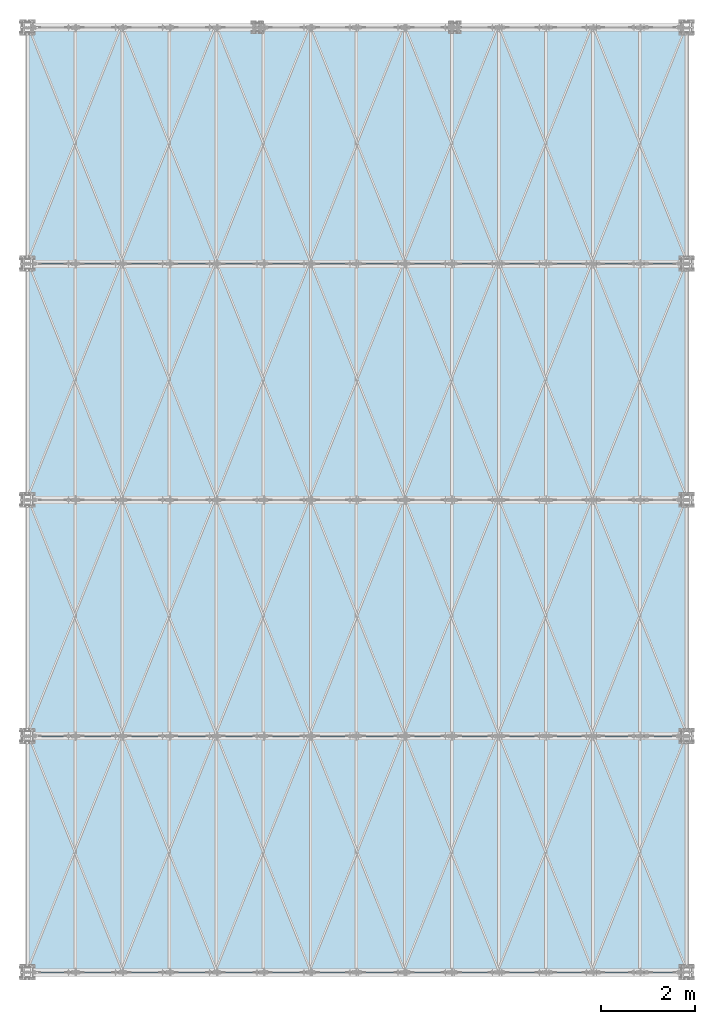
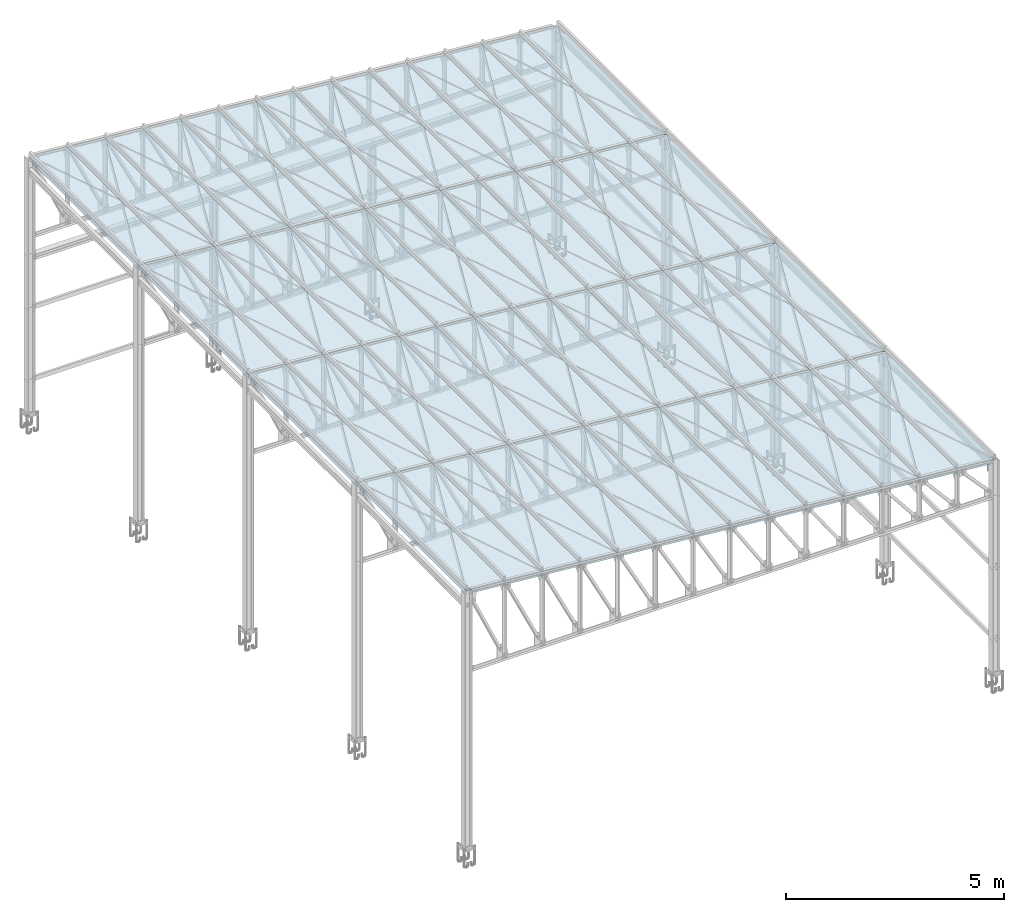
# One storey, part 4 of 251: 56 slabs.
"""IFC4 building model written with IfcOpenShell, lengths in metres."""

from ifc_helpers import new_model, si_unit, frame, origin_with_axes, place, context, project, spatial, polyline, outline, extrude, material, type_object, element, save


model = new_model("IFC4")

# Units and contexts
model_context = context("Model", 3, precision=1e-05, world=origin_with_axes())
ifc_project = project(units=[si_unit("LENGTHUNIT", "METRE"), si_unit("AREAUNIT", "SQUARE_METRE"), si_unit("VOLUMEUNIT", "CUBIC_METRE"), si_unit("MASSUNIT", "GRAM", prefix="KILO"), si_unit("TIMEUNIT", "SECOND"), si_unit("PLANEANGLEUNIT", "RADIAN"), si_unit("SOLIDANGLEUNIT", "STERADIAN"), si_unit("THERMODYNAMICTEMPERATUREUNIT", "DEGREE_CELSIUS")], contexts=[model_context])

# Site, building, storey
placement_1 = place(None, origin_with_axes())
site = spatial("IfcSite", under=ifc_project, at=placement_1, Name="Italia", CompositionType="ELEMENT")
building = spatial("IfcBuilding", under=site, at=placement_1, Name="Deposito", CompositionType="ELEMENT")
storey = spatial("IfcBuildingStorey", under=building, at=placement_1, Name="Storey 0", CompositionType="ELEMENT", Elevation=0.0)

# Slabs
ifc_material_1 = material(Name="Concrete", Category="Concrete")
slab_type_1 = type_object("IfcSlabType", Name="1 Solaio copertura", PredefinedType="FLOOR", material=ifc_material_1)
placement_2 = place(placement_1, origin_with_axes())
slab_1_placement = place(placement_2, origin_with_axes())
element("IfcSlab", 1, at=slab_1_placement, inside=storey, type_object=slab_type_1, Name="1700", context=model_context, shape_type="SweptSolid", body=[
    extrude(outline(polyline([(0.0, 0.0), (0.0, -0.973467), (-5.0, -0.973467), (-5.0, 0.0), (0.0, 0.0)])), frame((12.0304, 10.0, 6.69725), z_axis=(-0.089530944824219, 0.0, -0.995984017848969), x_axis=(0.0, -1.0, 0.0)), (0.0, 0.0, 1.0), 0.1),
])
ifc_material_2 = material(Name="Concrete", Category="Concrete")
slab_type_2 = type_object("IfcSlabType", Name="1 Solaio copertura", PredefinedType="FLOOR", material=ifc_material_2)
slab_2_placement = place(placement_2, origin_with_axes())
element("IfcSlab", 2, at=slab_2_placement, inside=storey, type_object=slab_type_2, Name="1800", context=model_context, shape_type="SweptSolid", body=[
    extrude(outline(polyline([(0.0, 0.0), (0.0, -1.0), (-5.0, -1.0), (-5.0, 0.0), (0.0, 0.0)])), frame((11.0342, 10.0, 6.7844), z_axis=(-0.087156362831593, 0.0, -0.996194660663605), x_axis=(0.0, -1.0, 0.0)), (0.0, 0.0, 1.0), 0.0999999),
])
ifc_material_3 = material(Name="Concrete", Category="Concrete")
slab_type_3 = type_object("IfcSlabType", Name="1 Solaio copertura", PredefinedType="FLOOR", material=ifc_material_3)
slab_3_placement = place(placement_2, origin_with_axes())
element("IfcSlab", 3, at=slab_3_placement, inside=storey, type_object=slab_type_3, Name="1900", context=model_context, shape_type="SweptSolid", body=[
    extrude(outline(polyline([(0.0, 0.0), (0.0, -1.0), (-5.0, -1.0), (-5.0, 0.0), (0.0, 0.0)])), frame((10.0381, 10.0, 6.87156), z_axis=(-0.087156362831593, 0.0, -0.996194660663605), x_axis=(0.0, -1.0, 0.0)), (0.0, 0.0, 1.0), 0.0999999),
])
ifc_material_4 = material(Name="Concrete", Category="Concrete")
slab_type_4 = type_object("IfcSlabType", Name="1 Solaio copertura", PredefinedType="FLOOR", material=ifc_material_4)
slab_4_placement = place(placement_2, origin_with_axes())
element("IfcSlab", 4, at=slab_4_placement, inside=storey, type_object=slab_type_4, Name="2000", context=model_context, shape_type="SweptSolid", body=[
    extrude(outline(polyline([(0.0, 0.0), (0.0, -0.999999), (-5.0, -0.999999), (-5.0, 0.0), (0.0, 0.0)])), frame((9.04186, 10.0, 6.95871), z_axis=(-0.087156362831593, 0.0, -0.996194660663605), x_axis=(0.0, -1.0, 0.0)), (0.0, 0.0, 1.0), 0.0999999),
])
ifc_material_5 = material(Name="Concrete", Category="Concrete")
slab_type_5 = type_object("IfcSlabType", Name="1 Solaio copertura", PredefinedType="FLOOR", material=ifc_material_5)
slab_5_placement = place(placement_2, origin_with_axes())
element("IfcSlab", 5, at=slab_5_placement, inside=storey, type_object=slab_type_5, Name="2100", context=model_context, shape_type="SweptSolid", body=[
    extrude(outline(polyline([(0.0, 0.0), (0.0, -1.0), (-5.0, -1.0), (-5.0, 0.0), (0.0, 0.0)])), frame((8.04566, 10.0, 7.04587), z_axis=(-0.087156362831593, 0.0, -0.996194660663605), x_axis=(0.0, -1.0, 0.0)), (0.0, 0.0, 1.0), 0.0999999),
])
ifc_material_6 = material(Name="Concrete", Category="Concrete")
slab_type_6 = type_object("IfcSlabType", Name="1 Solaio copertura", PredefinedType="FLOOR", material=ifc_material_6)
slab_6_placement = place(placement_2, origin_with_axes())
element("IfcSlab", 6, at=slab_6_placement, inside=storey, type_object=slab_type_6, Name="2200", context=model_context, shape_type="SweptSolid", body=[
    extrude(outline(polyline([(0.0, 0.0), (0.0, -1.0), (-5.0, -1.0), (-5.0, 0.0), (0.0, 0.0)])), frame((7.04947, 10.0, 7.13302), z_axis=(-0.087156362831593, 0.0, -0.996194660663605), x_axis=(0.0, -1.0, 0.0)), (0.0, 0.0, 1.0), 0.0999999),
])
ifc_material_7 = material(Name="Concrete", Category="Concrete")
slab_type_7 = type_object("IfcSlabType", Name="1 Solaio copertura", PredefinedType="FLOOR", material=ifc_material_7)
slab_7_placement = place(placement_2, origin_with_axes())
element("IfcSlab", 7, at=slab_7_placement, inside=storey, type_object=slab_type_7, Name="2300", context=model_context, shape_type="SweptSolid", body=[
    extrude(outline(polyline([(0.0, 0.0), (0.0, -1.00326), (-5.0, -1.00326), (-5.0, 0.0), (0.0, 0.0)])), frame((6.05, 10.0, 7.22018), z_axis=(-0.086870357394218, 0.0, -0.996219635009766), x_axis=(0.0, -1.0, 0.0)), (0.0, 0.0, 1.0), 0.0999998),
])
ifc_material_8 = material(Name="Concrete", Category="Concrete")
slab_type_8 = type_object("IfcSlabType", Name="1 Solaio copertura", PredefinedType="FLOOR", material=ifc_material_8)
slab_8_placement = place(placement_2, origin_with_axes())
element("IfcSlab", 8, at=slab_8_placement, inside=storey, type_object=slab_type_8, Name="2301", context=model_context, shape_type="SweptSolid", body=[
    extrude(outline(polyline([(0.0, 0.0), (0.0, -1.00326), (-5.0, -1.00326), (-5.0, 0.0), (0.0, 0.0)])), frame((6.05, 5.0, 7.22018), z_axis=(-0.086870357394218, 0.0, -0.996219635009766), x_axis=(0.0, -1.0, 0.0)), (0.0, 0.0, 1.0), 0.0999998),
])
ifc_material_9 = material(Name="Concrete", Category="Concrete")
slab_type_9 = type_object("IfcSlabType", Name="1 Solaio copertura", PredefinedType="FLOOR", material=ifc_material_9)
slab_9_placement = place(placement_2, origin_with_axes())
element("IfcSlab", 9, at=slab_9_placement, inside=storey, type_object=slab_type_9, Name="2201", context=model_context, shape_type="SweptSolid", body=[
    extrude(outline(polyline([(0.0, 0.0), (0.0, -1.0), (-5.0, -1.0), (-5.0, 0.0), (0.0, 0.0)])), frame((7.04947, 5.0, 7.13302), z_axis=(-0.087156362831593, 0.0, -0.996194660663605), x_axis=(0.0, -1.0, 0.0)), (0.0, 0.0, 1.0), 0.0999999),
])
ifc_material_10 = material(Name="Concrete", Category="Concrete")
slab_type_10 = type_object("IfcSlabType", Name="1 Solaio copertura", PredefinedType="FLOOR", material=ifc_material_10)
slab_10_placement = place(placement_2, origin_with_axes())
element("IfcSlab", 10, at=slab_10_placement, inside=storey, type_object=slab_type_10, Name="2101", context=model_context, shape_type="SweptSolid", body=[
    extrude(outline(polyline([(0.0, 0.0), (0.0, -1.0), (-5.0, -1.0), (-5.0, 0.0), (0.0, 0.0)])), frame((8.04566, 5.0, 7.04587), z_axis=(-0.087156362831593, 0.0, -0.996194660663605), x_axis=(0.0, -1.0, 0.0)), (0.0, 0.0, 1.0), 0.0999999),
])
ifc_material_11 = material(Name="Concrete", Category="Concrete")
slab_type_11 = type_object("IfcSlabType", Name="1 Solaio copertura", PredefinedType="FLOOR", material=ifc_material_11)
slab_11_placement = place(placement_2, origin_with_axes())
element("IfcSlab", 11, at=slab_11_placement, inside=storey, type_object=slab_type_11, Name="2001", context=model_context, shape_type="SweptSolid", body=[
    extrude(outline(polyline([(0.0, 0.0), (0.0, -0.999999), (-5.0, -0.999999), (-5.0, 0.0), (0.0, 0.0)])), frame((9.04186, 5.0, 6.95871), z_axis=(-0.087156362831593, 0.0, -0.996194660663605), x_axis=(0.0, -1.0, 0.0)), (0.0, 0.0, 1.0), 0.0999999),
])
ifc_material_12 = material(Name="Concrete", Category="Concrete")
slab_type_12 = type_object("IfcSlabType", Name="1 Solaio copertura", PredefinedType="FLOOR", material=ifc_material_12)
slab_12_placement = place(placement_2, origin_with_axes())
element("IfcSlab", 12, at=slab_12_placement, inside=storey, type_object=slab_type_12, Name="1901", context=model_context, shape_type="SweptSolid", body=[
    extrude(outline(polyline([(0.0, 0.0), (0.0, -1.0), (-5.0, -1.0), (-5.0, 0.0), (0.0, 0.0)])), frame((10.0381, 5.0, 6.87156), z_axis=(-0.087156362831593, 0.0, -0.996194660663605), x_axis=(0.0, -1.0, 0.0)), (0.0, 0.0, 1.0), 0.0999999),
])
ifc_material_13 = material(Name="Concrete", Category="Concrete")
slab_type_13 = type_object("IfcSlabType", Name="1 Solaio copertura", PredefinedType="FLOOR", material=ifc_material_13)
slab_13_placement = place(placement_2, origin_with_axes())
element("IfcSlab", 13, at=slab_13_placement, inside=storey, type_object=slab_type_13, Name="1801", context=model_context, shape_type="SweptSolid", body=[
    extrude(outline(polyline([(0.0, 0.0), (0.0, -1.0), (-5.0, -1.0), (-5.0, 0.0), (0.0, 0.0)])), frame((11.0342, 5.0, 6.7844), z_axis=(-0.087156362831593, 0.0, -0.996194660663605), x_axis=(0.0, -1.0, 0.0)), (0.0, 0.0, 1.0), 0.0999999),
])
ifc_material_14 = material(Name="Concrete", Category="Concrete")
slab_type_14 = type_object("IfcSlabType", Name="1 Solaio copertura", PredefinedType="FLOOR", material=ifc_material_14)
slab_14_placement = place(placement_2, origin_with_axes())
element("IfcSlab", 14, at=slab_14_placement, inside=storey, type_object=slab_type_14, Name="1701", context=model_context, shape_type="SweptSolid", body=[
    extrude(outline(polyline([(0.0, 0.0), (0.0, -0.973467), (-5.0, -0.973467), (-5.0, 0.0), (0.0, 0.0)])), frame((12.0304, 5.0, 6.69725), z_axis=(-0.089530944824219, 0.0, -0.995984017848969), x_axis=(0.0, -1.0, 0.0)), (0.0, 0.0, 1.0), 0.1),
])
ifc_material_15 = material(Name="Concrete", Category="Concrete")
slab_type_15 = type_object("IfcSlabType", Name="1 Solaio copertura", PredefinedType="FLOOR", material=ifc_material_15)
slab_15_placement = place(placement_2, origin_with_axes())
element("IfcSlab", 15, at=slab_15_placement, inside=storey, type_object=slab_type_15, Name="1600", context=model_context, shape_type="SweptSolid", body=[
    extrude(outline(polyline([(0.0, 0.0), (0.0, -1.02654), (-5.0, -1.02654), (-5.0, 0.0), (0.0, 0.0)])), frame((13.0, 5.0, 6.61009), z_axis=(-0.084905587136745, 0.0, -0.996388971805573), x_axis=(0.0, -1.0, 0.0)), (0.0, 0.0, 1.0), 0.1),
])
ifc_material_16 = material(Name="Concrete", Category="Concrete")
slab_type_16 = type_object("IfcSlabType", Name="1 Solaio copertura", PredefinedType="FLOOR", material=ifc_material_16)
slab_16_placement = place(placement_2, origin_with_axes())
element("IfcSlab", 16, at=slab_16_placement, inside=storey, type_object=slab_type_16, Name="1500", context=model_context, shape_type="SweptSolid", body=[
    extrude(outline(polyline([(0.0, 0.0), (0.0, -1.0), (-5.0, -1.0), (-5.0, 0.0), (0.0, 0.0)])), frame((14.0228, 5.0, 6.52293), z_axis=(-0.087156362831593, 0.0, -0.996194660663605), x_axis=(0.0, -1.0, 0.0)), (0.0, 0.0, 1.0), 0.0999999),
])
ifc_material_17 = material(Name="Concrete", Category="Concrete")
slab_type_17 = type_object("IfcSlabType", Name="1 Solaio copertura", PredefinedType="FLOOR", material=ifc_material_17)
slab_17_placement = place(placement_2, origin_with_axes())
element("IfcSlab", 17, at=slab_17_placement, inside=storey, type_object=slab_type_17, Name="1400", context=model_context, shape_type="SweptSolid", body=[
    extrude(outline(polyline([(0.0, 0.0), (0.0, -0.999999), (-5.0, -0.999999), (-5.0, 0.0), (0.0, 0.0)])), frame((15.019, 5.0, 6.43578), z_axis=(-0.087156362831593, 0.0, -0.996194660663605), x_axis=(0.0, -1.0, 0.0)), (0.0, 0.0, 1.0), 0.0999999),
])
ifc_material_18 = material(Name="Concrete", Category="Concrete")
slab_type_18 = type_object("IfcSlabType", Name="1 Solaio copertura", PredefinedType="FLOOR", material=ifc_material_18)
slab_18_placement = place(placement_2, origin_with_axes())
element("IfcSlab", 18, at=slab_18_placement, inside=storey, type_object=slab_type_18, Name="1300", context=model_context, shape_type="SweptSolid", body=[
    extrude(outline(polyline([(0.0, 0.0), (0.0, -1.0), (-5.0, -1.0), (-5.0, 0.0), (0.0, 0.0)])), frame((16.0152, 5.0, 6.34862), z_axis=(-0.087146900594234, 0.0, -0.996195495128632), x_axis=(0.0, -1.0, 0.0)), (0.0, 0.0, 1.0), 0.0999998),
])
ifc_material_19 = material(Name="Concrete", Category="Concrete")
slab_type_19 = type_object("IfcSlabType", Name="1 Solaio copertura", PredefinedType="FLOOR", material=ifc_material_19)
slab_19_placement = place(placement_2, origin_with_axes())
element("IfcSlab", 19, at=slab_19_placement, inside=storey, type_object=slab_type_19, Name="1200", context=model_context, shape_type="SweptSolid", body=[
    extrude(outline(polyline([(0.0, 0.0), (0.0, -1.0), (-5.0, -1.0), (-5.0, 0.0), (0.0, 0.0)])), frame((17.0114, 5.0, 6.26147), z_axis=(-0.087146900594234, 0.0, -0.996195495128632), x_axis=(0.0, -1.0, 0.0)), (0.0, 0.0, 1.0), 0.0999998),
])
ifc_material_20 = material(Name="Concrete", Category="Concrete")
slab_type_20 = type_object("IfcSlabType", Name="1 Solaio copertura", PredefinedType="FLOOR", material=ifc_material_20)
slab_20_placement = place(placement_2, origin_with_axes())
element("IfcSlab", 20, at=slab_20_placement, inside=storey, type_object=slab_type_20, Name="1100", context=model_context, shape_type="SweptSolid", body=[
    extrude(outline(polyline([(0.0, 0.0), (0.0, -1.0), (-5.0, -1.0), (-5.0, 0.0), (0.0, 0.0)])), frame((18.0076, 5.0, 6.17431), z_axis=(-0.087146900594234, 0.0, -0.996195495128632), x_axis=(0.0, -1.0, 0.0)), (0.0, 0.0, 1.0), 0.0999998),
])
ifc_material_21 = material(Name="Concrete", Category="Concrete")
slab_type_21 = type_object("IfcSlabType", Name="1 Solaio copertura", PredefinedType="FLOOR", material=ifc_material_21)
slab_21_placement = place(placement_2, origin_with_axes())
element("IfcSlab", 21, at=slab_21_placement, inside=storey, type_object=slab_type_21, Name="1000", context=model_context, shape_type="SweptSolid", body=[
    extrude(outline(polyline([(0.0, 0.0), (0.0, -1.0), (-5.0, -1.0), (-5.0, 0.0), (0.0, 0.0)])), frame((19.0038, 5.0, 6.08716), z_axis=(-0.087146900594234, 0.0, -0.996195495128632), x_axis=(0.0, -1.0, 0.0)), (0.0, 0.0, 1.0), 0.0999998),
])
ifc_material_22 = material(Name="Concrete", Category="Concrete")
slab_type_22 = type_object("IfcSlabType", Name="1 Solaio copertura", PredefinedType="FLOOR", material=ifc_material_22)
slab_22_placement = place(placement_2, origin_with_axes())
element("IfcSlab", 22, at=slab_22_placement, inside=storey, type_object=slab_type_22, Name="1001", context=model_context, shape_type="SweptSolid", body=[
    extrude(outline(polyline([(0.0, 0.0), (0.0, -1.0), (-5.0, -1.0), (-5.0, 0.0), (0.0, 0.0)])), frame((19.0038, 0.0, 6.08716), z_axis=(-0.087146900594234, 0.0, -0.996195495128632), x_axis=(0.0, -1.0, 0.0)), (0.0, 0.0, 1.0), 0.0999998),
])
ifc_material_23 = material(Name="Concrete", Category="Concrete")
slab_type_23 = type_object("IfcSlabType", Name="1 Solaio copertura", PredefinedType="FLOOR", material=ifc_material_23)
slab_23_placement = place(placement_2, origin_with_axes())
element("IfcSlab", 23, at=slab_23_placement, inside=storey, type_object=slab_type_23, Name="1101", context=model_context, shape_type="SweptSolid", body=[
    extrude(outline(polyline([(0.0, 0.0), (0.0, -1.0), (-5.0, -1.0), (-5.0, 0.0), (0.0, 0.0)])), frame((18.0076, 0.0, 6.17431), z_axis=(-0.087146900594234, 0.0, -0.996195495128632), x_axis=(0.0, -1.0, 0.0)), (0.0, 0.0, 1.0), 0.0999998),
])
ifc_material_24 = material(Name="Concrete", Category="Concrete")
slab_type_24 = type_object("IfcSlabType", Name="1 Solaio copertura", PredefinedType="FLOOR", material=ifc_material_24)
slab_24_placement = place(placement_2, origin_with_axes())
element("IfcSlab", 24, at=slab_24_placement, inside=storey, type_object=slab_type_24, Name="1201", context=model_context, shape_type="SweptSolid", body=[
    extrude(outline(polyline([(0.0, 0.0), (0.0, -1.0), (-5.0, -1.0), (-5.0, 0.0), (0.0, 0.0)])), frame((17.0114, 0.0, 6.26147), z_axis=(-0.087146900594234, 0.0, -0.996195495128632), x_axis=(0.0, -1.0, 0.0)), (0.0, 0.0, 1.0), 0.0999998),
])
ifc_material_25 = material(Name="Concrete", Category="Concrete")
slab_type_25 = type_object("IfcSlabType", Name="1 Solaio copertura", PredefinedType="FLOOR", material=ifc_material_25)
slab_25_placement = place(placement_2, origin_with_axes())
element("IfcSlab", 25, at=slab_25_placement, inside=storey, type_object=slab_type_25, Name="1301", context=model_context, shape_type="SweptSolid", body=[
    extrude(outline(polyline([(0.0, 0.0), (0.0, -1.0), (-5.0, -1.0), (-5.0, 0.0), (0.0, 0.0)])), frame((16.0152, 0.0, 6.34862), z_axis=(-0.087146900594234, 0.0, -0.996195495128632), x_axis=(0.0, -1.0, 0.0)), (0.0, 0.0, 1.0), 0.0999998),
])
ifc_material_26 = material(Name="Concrete", Category="Concrete")
slab_type_26 = type_object("IfcSlabType", Name="1 Solaio copertura", PredefinedType="FLOOR", material=ifc_material_26)
slab_26_placement = place(placement_2, origin_with_axes())
element("IfcSlab", 26, at=slab_26_placement, inside=storey, type_object=slab_type_26, Name="1401", context=model_context, shape_type="SweptSolid", body=[
    extrude(outline(polyline([(0.0, 0.0), (0.0, -0.999999), (-5.0, -0.999999), (-5.0, 0.0), (0.0, 0.0)])), frame((15.019, 0.0, 6.43578), z_axis=(-0.087156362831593, 0.0, -0.996194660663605), x_axis=(0.0, -1.0, 0.0)), (0.0, 0.0, 1.0), 0.0999999),
])
ifc_material_27 = material(Name="Concrete", Category="Concrete")
slab_type_27 = type_object("IfcSlabType", Name="1 Solaio copertura", PredefinedType="FLOOR", material=ifc_material_27)
slab_27_placement = place(placement_2, origin_with_axes())
element("IfcSlab", 27, at=slab_27_placement, inside=storey, type_object=slab_type_27, Name="1501", context=model_context, shape_type="SweptSolid", body=[
    extrude(outline(polyline([(0.0, 0.0), (0.0, -1.0), (-5.0, -1.0), (-5.0, 0.0), (0.0, 0.0)])), frame((14.0228, 0.0, 6.52293), z_axis=(-0.087156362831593, 0.0, -0.996194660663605), x_axis=(0.0, -1.0, 0.0)), (0.0, 0.0, 1.0), 0.0999999),
])
ifc_material_28 = material(Name="Concrete", Category="Concrete")
slab_type_28 = type_object("IfcSlabType", Name="1 Solaio copertura", PredefinedType="FLOOR", material=ifc_material_28)
slab_28_placement = place(placement_2, origin_with_axes())
element("IfcSlab", 28, at=slab_28_placement, inside=storey, type_object=slab_type_28, Name="1601", context=model_context, shape_type="SweptSolid", body=[
    extrude(outline(polyline([(0.0, 0.0), (0.0, -1.02654), (-5.0, -1.02654), (-5.0, 0.0), (0.0, 0.0)])), frame((13.0, 0.0, 6.61009), z_axis=(-0.084905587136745, 0.0, -0.996388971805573), x_axis=(0.0, -1.0, 0.0)), (0.0, 0.0, 1.0), 0.1),
])
ifc_material_29 = material(Name="Concrete", Category="Concrete")
slab_type_29 = type_object("IfcSlabType", Name="1 Solaio copertura", PredefinedType="FLOOR", material=ifc_material_29)
slab_29_placement = place(placement_2, origin_with_axes())
element("IfcSlab", 29, at=slab_29_placement, inside=storey, type_object=slab_type_29, Name="1702", context=model_context, shape_type="SweptSolid", body=[
    extrude(outline(polyline([(0.0, 0.0), (0.0, -0.973467), (-5.0, -0.973467), (-5.0, 0.0), (0.0, 0.0)])), frame((12.0304, 0.0, 6.69725), z_axis=(-0.089530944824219, 0.0, -0.995984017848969), x_axis=(0.0, -1.0, 0.0)), (0.0, 0.0, 1.0), 0.1),
])
ifc_material_30 = material(Name="Concrete", Category="Concrete")
slab_type_30 = type_object("IfcSlabType", Name="1 Solaio copertura", PredefinedType="FLOOR", material=ifc_material_30)
slab_30_placement = place(placement_2, origin_with_axes())
element("IfcSlab", 30, at=slab_30_placement, inside=storey, type_object=slab_type_30, Name="1802", context=model_context, shape_type="SweptSolid", body=[
    extrude(outline(polyline([(0.0, 0.0), (0.0, -1.0), (-5.0, -1.0), (-5.0, 0.0), (0.0, 0.0)])), frame((11.0342, 0.0, 6.7844), z_axis=(-0.087156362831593, 0.0, -0.996194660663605), x_axis=(0.0, -1.0, 0.0)), (0.0, 0.0, 1.0), 0.0999999),
])
ifc_material_31 = material(Name="Concrete", Category="Concrete")
slab_type_31 = type_object("IfcSlabType", Name="1 Solaio copertura", PredefinedType="FLOOR", material=ifc_material_31)
slab_31_placement = place(placement_2, origin_with_axes())
element("IfcSlab", 31, at=slab_31_placement, inside=storey, type_object=slab_type_31, Name="1902", context=model_context, shape_type="SweptSolid", body=[
    extrude(outline(polyline([(0.0, 0.0), (0.0, -1.0), (-5.0, -1.0), (-5.0, 0.0), (0.0, 0.0)])), frame((10.0381, 0.0, 6.87156), z_axis=(-0.087156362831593, 0.0, -0.996194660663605), x_axis=(0.0, -1.0, 0.0)), (0.0, 0.0, 1.0), 0.0999999),
])
ifc_material_32 = material(Name="Concrete", Category="Concrete")
slab_type_32 = type_object("IfcSlabType", Name="1 Solaio copertura", PredefinedType="FLOOR", material=ifc_material_32)
slab_32_placement = place(placement_2, origin_with_axes())
element("IfcSlab", 32, at=slab_32_placement, inside=storey, type_object=slab_type_32, Name="2002", context=model_context, shape_type="SweptSolid", body=[
    extrude(outline(polyline([(0.0, 0.0), (0.0, -0.999999), (-5.0, -0.999999), (-5.0, 0.0), (0.0, 0.0)])), frame((9.04186, 0.0, 6.95871), z_axis=(-0.087156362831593, 0.0, -0.996194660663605), x_axis=(0.0, -1.0, 0.0)), (0.0, 0.0, 1.0), 0.0999999),
])
ifc_material_33 = material(Name="Concrete", Category="Concrete")
slab_type_33 = type_object("IfcSlabType", Name="1 Solaio copertura", PredefinedType="FLOOR", material=ifc_material_33)
slab_33_placement = place(placement_2, origin_with_axes())
element("IfcSlab", 33, at=slab_33_placement, inside=storey, type_object=slab_type_33, Name="2102", context=model_context, shape_type="SweptSolid", body=[
    extrude(outline(polyline([(0.0, 0.0), (0.0, -1.0), (-5.0, -1.0), (-5.0, 0.0), (0.0, 0.0)])), frame((8.04566, 0.0, 7.04587), z_axis=(-0.087156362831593, 0.0, -0.996194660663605), x_axis=(0.0, -1.0, 0.0)), (0.0, 0.0, 1.0), 0.0999999),
])
ifc_material_34 = material(Name="Concrete", Category="Concrete")
slab_type_34 = type_object("IfcSlabType", Name="1 Solaio copertura", PredefinedType="FLOOR", material=ifc_material_34)
slab_34_placement = place(placement_2, origin_with_axes())
element("IfcSlab", 34, at=slab_34_placement, inside=storey, type_object=slab_type_34, Name="2202", context=model_context, shape_type="SweptSolid", body=[
    extrude(outline(polyline([(0.0, 0.0), (0.0, -1.0), (-5.0, -1.0), (-5.0, 0.0), (0.0, 0.0)])), frame((7.04947, 0.0, 7.13302), z_axis=(-0.087156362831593, 0.0, -0.996194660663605), x_axis=(0.0, -1.0, 0.0)), (0.0, 0.0, 1.0), 0.0999999),
])
ifc_material_35 = material(Name="Concrete", Category="Concrete")
slab_type_35 = type_object("IfcSlabType", Name="1 Solaio copertura", PredefinedType="FLOOR", material=ifc_material_35)
slab_35_placement = place(placement_2, origin_with_axes())
element("IfcSlab", 35, at=slab_35_placement, inside=storey, type_object=slab_type_35, Name="2302", context=model_context, shape_type="SweptSolid", body=[
    extrude(outline(polyline([(0.0, 0.0), (0.0, -1.00326), (-5.0, -1.00326), (-5.0, 0.0), (0.0, 0.0)])), frame((6.05, 0.0, 7.22018), z_axis=(-0.086870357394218, 0.0, -0.996219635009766), x_axis=(0.0, -1.0, 0.0)), (0.0, 0.0, 1.0), 0.0999998),
])
ifc_material_36 = material(Name="Concrete", Category="Concrete")
slab_type_36 = type_object("IfcSlabType", Name="1 Solaio copertura", PredefinedType="FLOOR", material=ifc_material_36)
slab_36_placement = place(placement_2, origin_with_axes())
element("IfcSlab", 36, at=slab_36_placement, inside=storey, type_object=slab_type_36, Name="1602", context=model_context, shape_type="SweptSolid", body=[
    extrude(outline(polyline([(0.0, 0.0), (0.0, -1.02654), (-5.0, -1.02654), (-5.0, 0.0), (0.0, 0.0)])), frame((13.0, 10.0, 6.61009), z_axis=(-0.084905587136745, 0.0, -0.996388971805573), x_axis=(0.0, -1.0, 0.0)), (0.0, 0.0, 1.0), 0.1),
])
ifc_material_37 = material(Name="Concrete", Category="Concrete")
slab_type_37 = type_object("IfcSlabType", Name="1 Solaio copertura", PredefinedType="FLOOR", material=ifc_material_37)
slab_37_placement = place(placement_2, origin_with_axes())
element("IfcSlab", 37, at=slab_37_placement, inside=storey, type_object=slab_type_37, Name="1502", context=model_context, shape_type="SweptSolid", body=[
    extrude(outline(polyline([(0.0, 0.0), (0.0, -1.0), (-5.0, -1.0), (-5.0, 0.0), (0.0, 0.0)])), frame((14.0228, 10.0, 6.52293), z_axis=(-0.087156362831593, 0.0, -0.996194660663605), x_axis=(0.0, -1.0, 0.0)), (0.0, 0.0, 1.0), 0.0999999),
])
ifc_material_38 = material(Name="Concrete", Category="Concrete")
slab_type_38 = type_object("IfcSlabType", Name="1 Solaio copertura", PredefinedType="FLOOR", material=ifc_material_38)
slab_38_placement = place(placement_2, origin_with_axes())
element("IfcSlab", 38, at=slab_38_placement, inside=storey, type_object=slab_type_38, Name="1402", context=model_context, shape_type="SweptSolid", body=[
    extrude(outline(polyline([(0.0, 0.0), (0.0, -0.999999), (-5.0, -0.999999), (-5.0, 0.0), (0.0, 0.0)])), frame((15.019, 10.0, 6.43578), z_axis=(-0.087156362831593, 0.0, -0.996194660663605), x_axis=(0.0, -1.0, 0.0)), (0.0, 0.0, 1.0), 0.0999999),
])
ifc_material_39 = material(Name="Concrete", Category="Concrete")
slab_type_39 = type_object("IfcSlabType", Name="1 Solaio copertura", PredefinedType="FLOOR", material=ifc_material_39)
slab_39_placement = place(placement_2, origin_with_axes())
element("IfcSlab", 39, at=slab_39_placement, inside=storey, type_object=slab_type_39, Name="1302", context=model_context, shape_type="SweptSolid", body=[
    extrude(outline(polyline([(0.0, 0.0), (0.0, -1.0), (-5.0, -1.0), (-5.0, 0.0), (0.0, 0.0)])), frame((16.0152, 10.0, 6.34862), z_axis=(-0.087146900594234, 0.0, -0.996195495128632), x_axis=(0.0, -1.0, 0.0)), (0.0, 0.0, 1.0), 0.0999998),
])
ifc_material_40 = material(Name="Concrete", Category="Concrete")
slab_type_40 = type_object("IfcSlabType", Name="1 Solaio copertura", PredefinedType="FLOOR", material=ifc_material_40)
slab_40_placement = place(placement_2, origin_with_axes())
element("IfcSlab", 40, at=slab_40_placement, inside=storey, type_object=slab_type_40, Name="1202", context=model_context, shape_type="SweptSolid", body=[
    extrude(outline(polyline([(0.0, 0.0), (0.0, -1.0), (-5.0, -1.0), (-5.0, 0.0), (0.0, 0.0)])), frame((17.0114, 10.0, 6.26147), z_axis=(-0.087146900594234, 0.0, -0.996195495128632), x_axis=(0.0, -1.0, 0.0)), (0.0, 0.0, 1.0), 0.0999998),
])
ifc_material_41 = material(Name="Concrete", Category="Concrete")
slab_type_41 = type_object("IfcSlabType", Name="1 Solaio copertura", PredefinedType="FLOOR", material=ifc_material_41)
slab_41_placement = place(placement_2, origin_with_axes())
element("IfcSlab", 41, at=slab_41_placement, inside=storey, type_object=slab_type_41, Name="1102", context=model_context, shape_type="SweptSolid", body=[
    extrude(outline(polyline([(0.0, 0.0), (0.0, -1.0), (-5.0, -1.0), (-5.0, 0.0), (0.0, 0.0)])), frame((18.0076, 10.0, 6.17431), z_axis=(-0.087146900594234, 0.0, -0.996195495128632), x_axis=(0.0, -1.0, 0.0)), (0.0, 0.0, 1.0), 0.0999998),
])
ifc_material_42 = material(Name="Concrete", Category="Concrete")
slab_type_42 = type_object("IfcSlabType", Name="1 Solaio copertura", PredefinedType="FLOOR", material=ifc_material_42)
slab_42_placement = place(placement_2, origin_with_axes())
element("IfcSlab", 42, at=slab_42_placement, inside=storey, type_object=slab_type_42, Name="1002", context=model_context, shape_type="SweptSolid", body=[
    extrude(outline(polyline([(0.0, 0.0), (0.0, -1.0), (-5.0, -1.0), (-5.0, 0.0), (0.0, 0.0)])), frame((19.0038, 10.0, 6.08716), z_axis=(-0.087146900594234, 0.0, -0.996195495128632), x_axis=(0.0, -1.0, 0.0)), (0.0, 0.0, 1.0), 0.0999998),
])
ifc_material_43 = material(Name="Concrete", Category="Concrete")
slab_type_43 = type_object("IfcSlabType", Name="1 Solaio copertura", PredefinedType="FLOOR", material=ifc_material_43)
slab_43_placement = place(placement_2, origin_with_axes())
element("IfcSlab", 43, at=slab_43_placement, inside=storey, type_object=slab_type_43, Name="2303", context=model_context, shape_type="SweptSolid", body=[
    extrude(outline(polyline([(0.0, 0.0), (0.0, -1.00326), (-5.0, -1.00326), (-5.0, 0.0), (0.0, 0.0)])), frame((6.05, 15.0, 7.22018), z_axis=(-0.086870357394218, 0.0, -0.996219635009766), x_axis=(0.0, -1.0, 0.0)), (0.0, 0.0, 1.0), 0.0999998),
])
ifc_material_44 = material(Name="Concrete", Category="Concrete")
slab_type_44 = type_object("IfcSlabType", Name="1 Solaio copertura", PredefinedType="FLOOR", material=ifc_material_44)
slab_44_placement = place(placement_2, origin_with_axes())
element("IfcSlab", 44, at=slab_44_placement, inside=storey, type_object=slab_type_44, Name="2203", context=model_context, shape_type="SweptSolid", body=[
    extrude(outline(polyline([(0.0, 0.0), (0.0, -1.0), (-5.0, -1.0), (-5.0, 0.0), (0.0, 0.0)])), frame((7.04947, 15.0, 7.13302), z_axis=(-0.087156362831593, 0.0, -0.996194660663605), x_axis=(0.0, -1.0, 0.0)), (0.0, 0.0, 1.0), 0.0999999),
])
ifc_material_45 = material(Name="Concrete", Category="Concrete")
slab_type_45 = type_object("IfcSlabType", Name="1 Solaio copertura", PredefinedType="FLOOR", material=ifc_material_45)
slab_45_placement = place(placement_2, origin_with_axes())
element("IfcSlab", 45, at=slab_45_placement, inside=storey, type_object=slab_type_45, Name="2103", context=model_context, shape_type="SweptSolid", body=[
    extrude(outline(polyline([(0.0, 0.0), (0.0, -1.0), (-5.0, -1.0), (-5.0, 0.0), (0.0, 0.0)])), frame((8.04566, 15.0, 7.04587), z_axis=(-0.087156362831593, 0.0, -0.996194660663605), x_axis=(0.0, -1.0, 0.0)), (0.0, 0.0, 1.0), 0.0999999),
])
ifc_material_46 = material(Name="Concrete", Category="Concrete")
slab_type_46 = type_object("IfcSlabType", Name="1 Solaio copertura", PredefinedType="FLOOR", material=ifc_material_46)
slab_46_placement = place(placement_2, origin_with_axes())
element("IfcSlab", 46, at=slab_46_placement, inside=storey, type_object=slab_type_46, Name="1903", context=model_context, shape_type="SweptSolid", body=[
    extrude(outline(polyline([(0.0, 0.0), (0.0, -1.0), (-5.0, -1.0), (-5.0, 0.0), (0.0, 0.0)])), frame((10.0381, 15.0, 6.87156), z_axis=(-0.087156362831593, 0.0, -0.996194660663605), x_axis=(0.0, -1.0, 0.0)), (0.0, 0.0, 1.0), 0.0999999),
])
ifc_material_47 = material(Name="Concrete", Category="Concrete")
slab_type_47 = type_object("IfcSlabType", Name="1 Solaio copertura", PredefinedType="FLOOR", material=ifc_material_47)
slab_47_placement = place(placement_2, origin_with_axes())
element("IfcSlab", 47, at=slab_47_placement, inside=storey, type_object=slab_type_47, Name="1803", context=model_context, shape_type="SweptSolid", body=[
    extrude(outline(polyline([(0.0, 0.0), (0.0, -1.0), (-5.0, -1.0), (-5.0, 0.0), (0.0, 0.0)])), frame((11.0342, 15.0, 6.7844), z_axis=(-0.087156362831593, 0.0, -0.996194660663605), x_axis=(0.0, -1.0, 0.0)), (0.0, 0.0, 1.0), 0.0999999),
])
ifc_material_48 = material(Name="Concrete", Category="Concrete")
slab_type_48 = type_object("IfcSlabType", Name="1 Solaio copertura", PredefinedType="FLOOR", material=ifc_material_48)
slab_48_placement = place(placement_2, origin_with_axes())
element("IfcSlab", 48, at=slab_48_placement, inside=storey, type_object=slab_type_48, Name="1703", context=model_context, shape_type="SweptSolid", body=[
    extrude(outline(polyline([(0.0, 0.0), (0.0, -0.973467), (-5.0, -0.973467), (-5.0, 0.0), (0.0, 0.0)])), frame((12.0304, 15.0, 6.69725), z_axis=(-0.089530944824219, 0.0, -0.995984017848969), x_axis=(0.0, -1.0, 0.0)), (0.0, 0.0, 1.0), 0.1),
])
ifc_material_49 = material(Name="Concrete", Category="Concrete")
slab_type_49 = type_object("IfcSlabType", Name="1 Solaio copertura", PredefinedType="FLOOR", material=ifc_material_49)
slab_49_placement = place(placement_2, origin_with_axes())
element("IfcSlab", 49, at=slab_49_placement, inside=storey, type_object=slab_type_49, Name="1603", context=model_context, shape_type="SweptSolid", body=[
    extrude(outline(polyline([(0.0, 0.0), (0.0, -1.02654), (-5.0, -1.02654), (-5.0, 0.0), (0.0, 0.0)])), frame((13.0, 15.0, 6.61009), z_axis=(-0.084905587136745, 0.0, -0.996388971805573), x_axis=(0.0, -1.0, 0.0)), (0.0, 0.0, 1.0), 0.1),
])
ifc_material_50 = material(Name="Concrete", Category="Concrete")
slab_type_50 = type_object("IfcSlabType", Name="1 Solaio copertura", PredefinedType="FLOOR", material=ifc_material_50)
slab_50_placement = place(placement_2, origin_with_axes())
element("IfcSlab", 50, at=slab_50_placement, inside=storey, type_object=slab_type_50, Name="1503", context=model_context, shape_type="SweptSolid", body=[
    extrude(outline(polyline([(0.0, 0.0), (0.0, -1.0), (-5.0, -1.0), (-5.0, 0.0), (0.0, 0.0)])), frame((14.0228, 15.0, 6.52293), z_axis=(-0.087156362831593, 0.0, -0.996194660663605), x_axis=(0.0, -1.0, 0.0)), (0.0, 0.0, 1.0), 0.0999999),
])
ifc_material_51 = material(Name="Concrete", Category="Concrete")
slab_type_51 = type_object("IfcSlabType", Name="1 Solaio copertura", PredefinedType="FLOOR", material=ifc_material_51)
slab_51_placement = place(placement_2, origin_with_axes())
element("IfcSlab", 51, at=slab_51_placement, inside=storey, type_object=slab_type_51, Name="1403", context=model_context, shape_type="SweptSolid", body=[
    extrude(outline(polyline([(0.0, 0.0), (0.0, -0.999999), (-5.0, -0.999999), (-5.0, 0.0), (0.0, 0.0)])), frame((15.019, 15.0, 6.43578), z_axis=(-0.087156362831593, 0.0, -0.996194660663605), x_axis=(0.0, -1.0, 0.0)), (0.0, 0.0, 1.0), 0.0999999),
])
ifc_material_52 = material(Name="Concrete", Category="Concrete")
slab_type_52 = type_object("IfcSlabType", Name="1 Solaio copertura", PredefinedType="FLOOR", material=ifc_material_52)
slab_52_placement = place(placement_2, origin_with_axes())
element("IfcSlab", 52, at=slab_52_placement, inside=storey, type_object=slab_type_52, Name="1203", context=model_context, shape_type="SweptSolid", body=[
    extrude(outline(polyline([(0.0, 0.0), (0.0, -1.0), (-5.0, -1.0), (-5.0, 0.0), (0.0, 0.0)])), frame((17.0114, 15.0, 6.26147), z_axis=(-0.087146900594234, 0.0, -0.996195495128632), x_axis=(0.0, -1.0, 0.0)), (0.0, 0.0, 1.0), 0.0999998),
])
ifc_material_53 = material(Name="Concrete", Category="Concrete")
slab_type_53 = type_object("IfcSlabType", Name="1 Solaio copertura", PredefinedType="FLOOR", material=ifc_material_53)
slab_53_placement = place(placement_2, origin_with_axes())
element("IfcSlab", 53, at=slab_53_placement, inside=storey, type_object=slab_type_53, Name="1103", context=model_context, shape_type="SweptSolid", body=[
    extrude(outline(polyline([(0.0, 0.0), (0.0, -1.0), (-5.0, -1.0), (-5.0, 0.0), (0.0, 0.0)])), frame((18.0076, 15.0, 6.17431), z_axis=(-0.087146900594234, 0.0, -0.996195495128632), x_axis=(0.0, -1.0, 0.0)), (0.0, 0.0, 1.0), 0.0999998),
])
ifc_material_54 = material(Name="Concrete", Category="Concrete")
slab_type_54 = type_object("IfcSlabType", Name="1 Solaio copertura", PredefinedType="FLOOR", material=ifc_material_54)
slab_54_placement = place(placement_2, origin_with_axes())
element("IfcSlab", 54, at=slab_54_placement, inside=storey, type_object=slab_type_54, Name="1003", context=model_context, shape_type="SweptSolid", body=[
    extrude(outline(polyline([(0.0, 0.0), (0.0, -1.0), (-5.0, -1.0), (-5.0, 0.0), (0.0, 0.0)])), frame((19.0038, 15.0, 6.08716), z_axis=(-0.087146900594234, 0.0, -0.996195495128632), x_axis=(0.0, -1.0, 0.0)), (0.0, 0.0, 1.0), 0.0999998),
])
ifc_material_55 = material(Name="Concrete", Category="Concrete")
slab_type_55 = type_object("IfcSlabType", Name="1 Solaio copertura", PredefinedType="FLOOR", material=ifc_material_55)
slab_55_placement = place(placement_2, origin_with_axes())
element("IfcSlab", 55, at=slab_55_placement, inside=storey, type_object=slab_type_55, Name="1303", context=model_context, shape_type="SweptSolid", body=[
    extrude(outline(polyline([(0.0, 0.0), (-5.0, 0.0), (-5.0, 1.0), (0.0, 1.0), (0.0, 0.0)])), frame((17.0114, 15.0, 6.26147), z_axis=(-0.087146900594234, 0.0, -0.996195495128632), x_axis=(0.0, -1.0, 0.0)), (0.0, 0.0, 1.0), 0.0999998),
])
ifc_material_56 = material(Name="Concrete", Category="Concrete")
slab_type_56 = type_object("IfcSlabType", Name="1 Solaio copertura", PredefinedType="FLOOR", material=ifc_material_56)
slab_56_placement = place(placement_2, origin_with_axes())
element("IfcSlab", 56, at=slab_56_placement, inside=storey, type_object=slab_type_56, Name="2003", context=model_context, shape_type="SweptSolid", body=[
    extrude(outline(polyline([(0.0, 0.0), (-5.0, 0.0), (-5.0, 0.999999), (0.0, 0.999999), (0.0, 0.0)])), frame((10.0381, 15.0, 6.87156), z_axis=(-0.087156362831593, 0.0, -0.996194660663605), x_axis=(0.0, -1.0, 0.0)), (0.0, 0.0, 1.0), 0.0999999),
])

save(model, "model.ifc")
